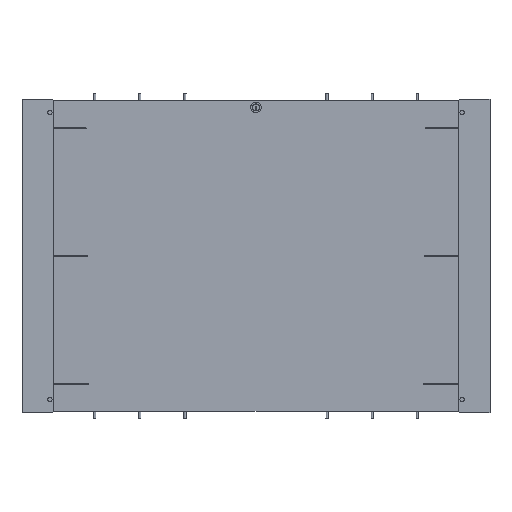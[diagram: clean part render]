
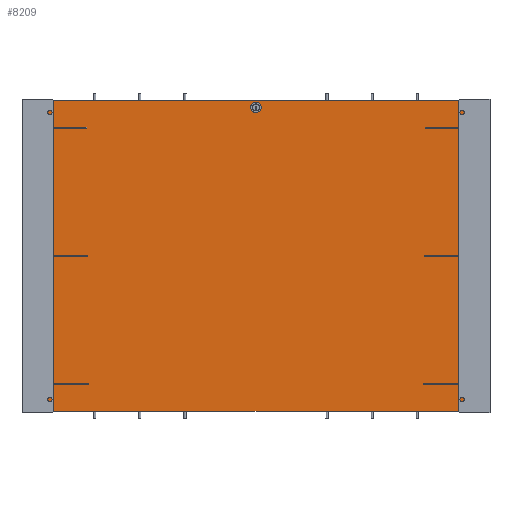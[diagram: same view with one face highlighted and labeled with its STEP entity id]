
A CAD part, front view. The second image highlights one B-rep face of the part: STEP entity #8209.
In plain terms, the highlighted planar face has unit normal (0, -1, -0.012).
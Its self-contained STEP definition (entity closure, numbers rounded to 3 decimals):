
#25 = CARTESIAN_POINT ( 'NONE',  ( 0., -534.934, 662.002 ) ) ;
#126 =( BOUNDED_CURVE ( )  B_SPLINE_CURVE ( 3, ( #25, #9806, #6894, #1025, #7877, #2015, #8856 ),
 .UNSPECIFIED., .T., .F. ) 
 B_SPLINE_CURVE_WITH_KNOTS ( ( 4, 3, 4 ),
 ( 0., 3.142, 6.283 ),
 .UNSPECIFIED. ) 
 CURVE ( )  GEOMETRIC_REPRESENTATION_ITEM ( )  RATIONAL_B_SPLINE_CURVE ( ( 1., 0.333, 0.333, 1., 0.333, 0.333, 1. ) ) 
 REPRESENTATION_ITEM ( '' )  );
#151 = CARTESIAN_POINT ( 'NONE',  ( -1003., -535., 667.5 ) ) ;
#551 = CARTESIAN_POINT ( 'NONE',  ( 1003., -535., 667.5 ) ) ;
#688 = EDGE_LOOP ( 'NONE', ( #2947 ) ) ;
#712 = DIRECTION ( 'NONE',  ( 0., -0.012, 1. ) ) ;
#739 = CARTESIAN_POINT ( 'NONE',  ( -1003., -535., 667.5 ) ) ;
#844 = LINE ( 'NONE', #739, #5785 ) ;
#887 = FACE_OUTER_BOUND ( 'NONE', #5682, .T. ) ;
#893 = CARTESIAN_POINT ( 'NONE',  ( -1003., -519., -667.5 ) ) ;
#950 = CARTESIAN_POINT ( 'NONE',  ( 1003., -535., 667.5 ) ) ;
#1017 = EDGE_CURVE ( 'NONE', #2778, #2778, #126, .T. ) ;
#1025 = CARTESIAN_POINT ( 'NONE',  ( 0., -534.395, 617.002 ) ) ;
#1225 = CARTESIAN_POINT ( 'NONE',  ( 2446.858, -535., 667.5 ) ) ;
#1743 = DIRECTION ( 'NONE',  ( 0., 0.012, -1. ) ) ;
#2015 = CARTESIAN_POINT ( 'NONE',  ( 45., -534.934, 662.002 ) ) ;
#2191 = CARTESIAN_POINT ( 'NONE',  ( 1003., -519., -667.5 ) ) ;
#2533 = DIRECTION ( 'NONE',  ( 0., -0.012, 1. ) ) ;
#2778 = VERTEX_POINT ( 'NONE', #3711 ) ;
#2947 = ORIENTED_EDGE ( 'NONE', *, *, #1017, .F. ) ;
#3649 = DIRECTION ( 'NONE',  ( 0., 1., 0.012 ) ) ;
#3711 = CARTESIAN_POINT ( 'NONE',  ( 0., -534.934, 662.002 ) ) ;
#4150 = ORIENTED_EDGE ( 'NONE', *, *, #10340, .T. ) ;
#4209 = DIRECTION ( 'NONE',  ( -1., 0., 0. ) ) ;
#4751 = LINE ( 'NONE', #551, #9634 ) ;
#4857 = DIRECTION ( 'NONE',  ( -1., 0., 0. ) ) ;
#5280 = LINE ( 'NONE', #10711, #10164 ) ;
#5632 = PLANE ( 'NONE',  #9757 ) ;
#5682 = EDGE_LOOP ( 'NONE', ( #10874, #10251, #8920, #4150 ) ) ;
#5785 = VECTOR ( 'NONE', #1743, 1000. ) ;
#6894 = CARTESIAN_POINT ( 'NONE',  ( -45., -534.395, 617.002 ) ) ;
#6918 = VECTOR ( 'NONE', #4209, 1000. ) ;
#7337 = VERTEX_POINT ( 'NONE', #151 ) ;
#7414 = EDGE_CURVE ( 'NONE', #11666, #7337, #9526, .T. ) ;
#7877 = CARTESIAN_POINT ( 'NONE',  ( 45., -534.395, 617.002 ) ) ;
#8102 = EDGE_CURVE ( 'NONE', #9496, #11666, #4751, .T. ) ;
#8209 = ADVANCED_FACE ( 'NONE', ( #11026, #887 ), #5632, .F. ) ;
#8856 = CARTESIAN_POINT ( 'NONE',  ( 0., -534.934, 662.002 ) ) ;
#8885 = VERTEX_POINT ( 'NONE', #893 ) ;
#8920 = ORIENTED_EDGE ( 'NONE', *, *, #7414, .T. ) ;
#9496 = VERTEX_POINT ( 'NONE', #2191 ) ;
#9526 = LINE ( 'NONE', #1225, #6918 ) ;
#9634 = VECTOR ( 'NONE', #2533, 1000. ) ;
#9757 = AXIS2_PLACEMENT_3D ( 'NONE', #12449, #3649, #712 ) ;
#9806 = CARTESIAN_POINT ( 'NONE',  ( -45., -534.934, 662.002 ) ) ;
#10164 = VECTOR ( 'NONE', #4857, 1000. ) ;
#10251 = ORIENTED_EDGE ( 'NONE', *, *, #8102, .T. ) ;
#10340 = EDGE_CURVE ( 'NONE', #7337, #8885, #844, .T. ) ;
#10711 = CARTESIAN_POINT ( 'NONE',  ( 2446.858, -519., -667.5 ) ) ;
#10874 = ORIENTED_EDGE ( 'NONE', *, *, #11747, .F. ) ;
#11026 = FACE_BOUND ( 'NONE', #688, .T. ) ;
#11666 = VERTEX_POINT ( 'NONE', #950 ) ;
#11747 = EDGE_CURVE ( 'NONE', #9496, #8885, #5280, .T. ) ;
#12449 = CARTESIAN_POINT ( 'NONE',  ( 2446.858, -535., 667.5 ) ) ;
